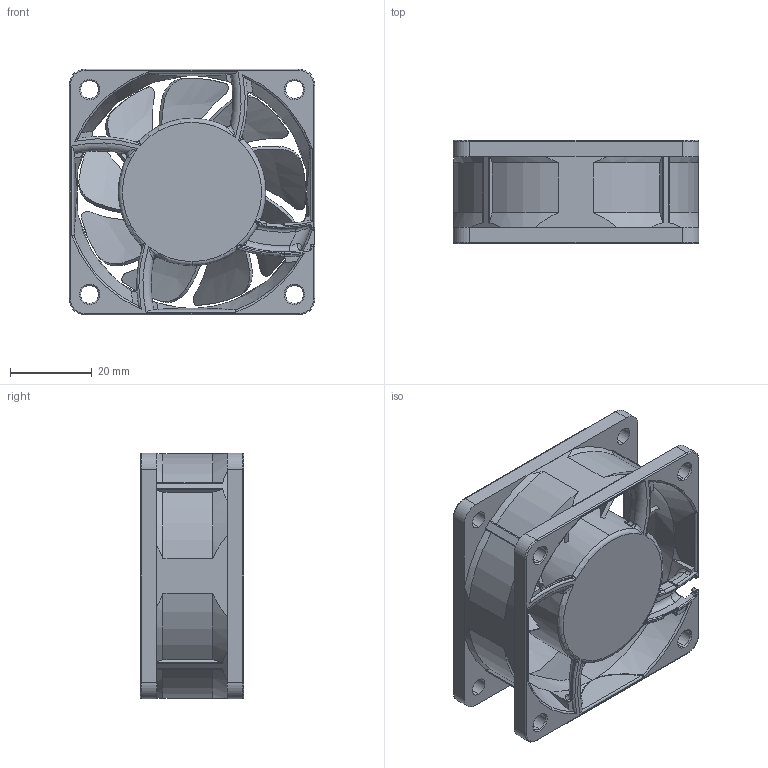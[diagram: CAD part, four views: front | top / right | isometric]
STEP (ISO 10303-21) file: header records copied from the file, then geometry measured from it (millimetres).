
FILE_DESCRIPTION (( 'STEP AP203' ), '1' );
FILE_NAME ('6025LG_RIBLESS.STEP', '2017-04-03T10:46:47', ( '' ), ( '' ), 'SwSTEP 2.0', 'SolidWorks 2017', '' );
FILE_SCHEMA (( 'CONFIG_CONTROL_DESIGN' ));
Length unit declared in the file: millimetre
Products named in the file (1): 6025LG_RIBLESS
Bounding box: 60 x 25.2 x 60 mm (x, y, z)
Volume: 38004.6 mm3; surface area: 21313.3 mm2
Topology: 1 solids, 1 shells, 555 faces, 1484 edges, 885 vertices
Faces by surface type: bspline 194, cylinder 149, plane 81, torus 76, cone 53, sphere 2
Entity records: 27507 total; most frequent: CARTESIAN_POINT 15432, ORIENTED_EDGE 2884, DIRECTION 2087, EDGE_CURVE 1442, AXIS2_PLACEMENT_3D 890, VERTEX_POINT 885, EDGE_LOOP 575, B_SPLINE_CURVE_WITH_KNOTS 561
